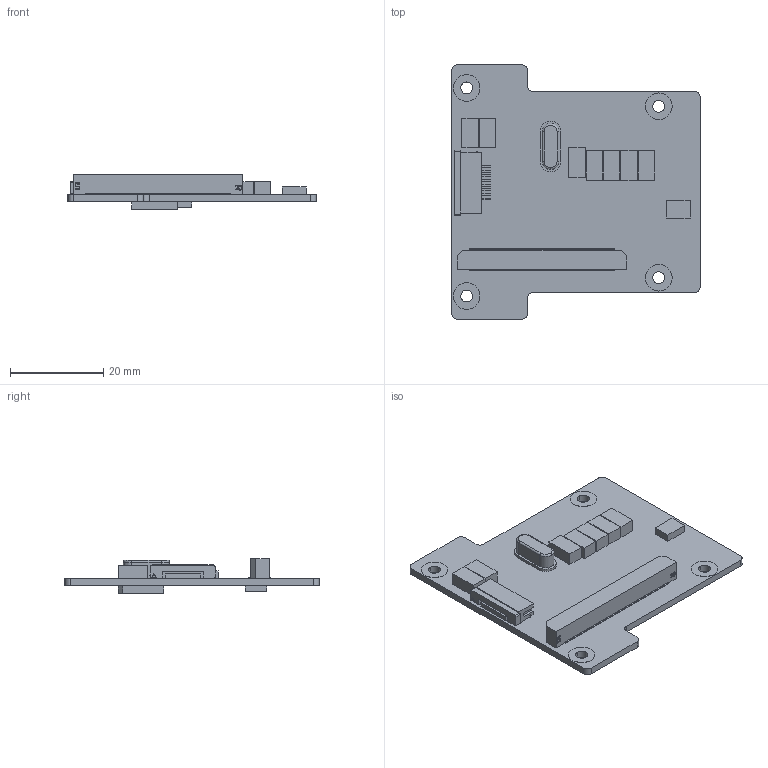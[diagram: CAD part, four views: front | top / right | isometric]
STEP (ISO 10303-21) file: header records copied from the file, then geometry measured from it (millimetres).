
FILE_DESCRIPTION (( 'STEP AP214' ), '1' );
FILE_NAME ('710-00516 Pluggable Processor Module A3 Rev B.STEP', '2017-01-23T18:09:59', ( '' ), ( '' ), 'SwSTEP 2.0', 'SolidWorks 2014', '' );
FILE_SCHEMA (( 'AUTOMOTIVE_DESIGN' ));
Length unit declared in the file: inch
Products named in the file (2): 710-00516 Pluggable Processor Module A3 Rev B
Bounding box: 53.34 x 54.61 x 7.47 mm (x, y, z)
Volume: 5396.1 mm3; surface area: 6502.5 mm2
Topology: 1 solids, 2 shells, 339 faces, 904 edges, 600 vertices
Faces by surface type: plane 239, cylinder 82, bspline 15, torus 3
Entity records: 13801 total; most frequent: CARTESIAN_POINT 3054, ORIENTED_EDGE 1808, DIRECTION 1691, EDGE_CURVE 904, LINE 705, VECTOR 705, VERTEX_POINT 600, AXIS2_PLACEMENT_3D 493
